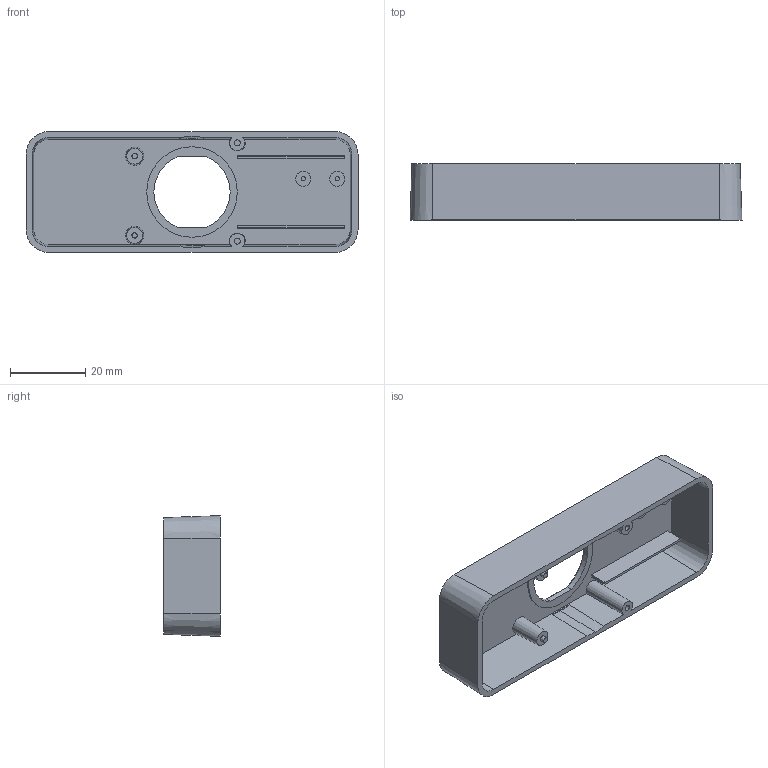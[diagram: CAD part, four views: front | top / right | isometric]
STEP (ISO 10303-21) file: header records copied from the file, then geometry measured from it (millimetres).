
FILE_DESCRIPTION(('FreeCAD Model'),'2;1');
FILE_NAME('Open CASCADE Shape Model','2026-11-12T12:36:21',('FreeCAD'),( 'FreeCAD'),'Open CASCADE STEP processor 7.8','FreeCAD','Unknown');
FILE_SCHEMA(('AUTOMOTIVE_DESIGN { 1 0 10303 214 1 1 1 1 }'));
Length unit declared in the file: millimetre
Products named in the file (1): Open CASCADE STEP translator 7.8 4
Bounding box: 88 x 14.9 x 32 mm (x, y, z)
Volume: 9130.6 mm3; surface area: 12516.8 mm2
Topology: 1 solids, 1 shells, 77 faces, 167 edges, 110 vertices
Faces by surface type: plane 34, cone 24, bspline 12, cylinder 7
Full cylindrical faces by diameter (mm): 1.1 x2, 4 x2, 24 x1
Entity records: 2135 total; most frequent: CARTESIAN_POINT 455, DIRECTION 339, ORIENTED_EDGE 334, EDGE_CURVE 167, AXIS2_PLACEMENT_3D 138, VERTEX_POINT 110, FACE_BOUND 97, EDGE_LOOP 97
